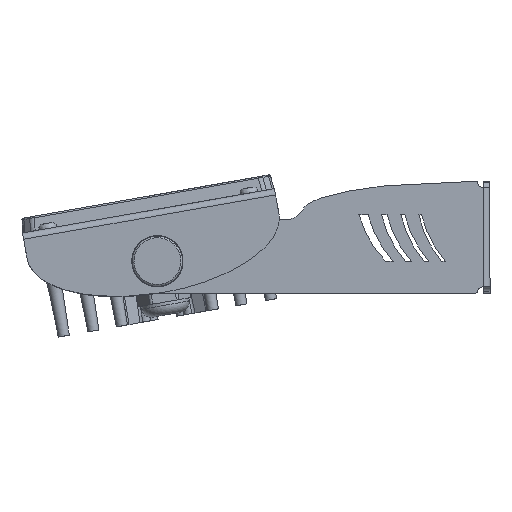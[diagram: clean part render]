
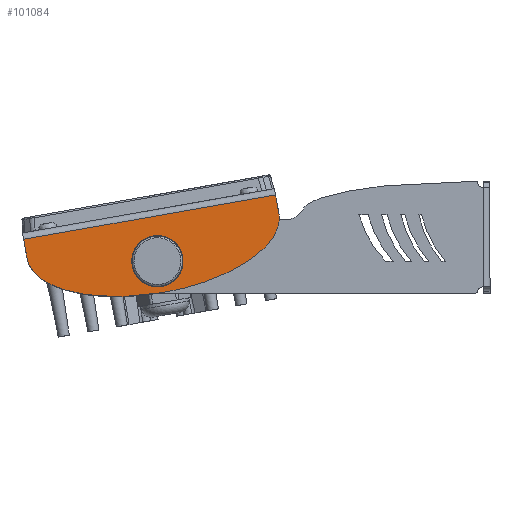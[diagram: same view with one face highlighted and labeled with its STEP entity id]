
A CAD part, left-side view. The second image highlights one B-rep face of the part: STEP entity #101084.
In plain terms, the highlighted planar face has unit normal (-1, 0, 0).
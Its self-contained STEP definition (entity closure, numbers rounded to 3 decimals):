
#7741=FACE_BOUND('',#20694,.T.);
#8182=ELLIPSE('',#107679,40.,18.);
#8183=ELLIPSE('',#107680,40.,18.);
#10964=CIRCLE('',#107681,4.);
#14783=FACE_OUTER_BOUND('',#20693,.T.);
#20693=EDGE_LOOP('',(#73708,#73709,#73710,#73711,#73712));
#20694=EDGE_LOOP('',(#73713));
#25573=LINE('',#225877,#31710);
#25574=LINE('',#225879,#31711);
#25575=LINE('',#225881,#31712);
#31710=VECTOR('',#118752,10.);
#31711=VECTOR('',#118753,10.);
#31712=VECTOR('',#118754,10.);
#40007=VERTEX_POINT('',#225875);
#40008=VERTEX_POINT('',#225876);
#40009=VERTEX_POINT('',#225878);
#40010=VERTEX_POINT('',#225880);
#40011=VERTEX_POINT('',#225882);
#40012=VERTEX_POINT('',#225885);
#52451=EDGE_CURVE('',#40007,#40008,#25573,.T.);
#52452=EDGE_CURVE('',#40009,#40007,#25574,.T.);
#52453=EDGE_CURVE('',#40010,#40009,#25575,.T.);
#52454=EDGE_CURVE('',#40011,#40010,#8182,.T.);
#52455=EDGE_CURVE('',#40008,#40011,#8183,.T.);
#52456=EDGE_CURVE('',#40012,#40012,#10964,.T.);
#73708=ORIENTED_EDGE('',*,*,#52451,.F.);
#73709=ORIENTED_EDGE('',*,*,#52452,.F.);
#73710=ORIENTED_EDGE('',*,*,#52453,.F.);
#73711=ORIENTED_EDGE('',*,*,#52454,.F.);
#73712=ORIENTED_EDGE('',*,*,#52455,.F.);
#73713=ORIENTED_EDGE('',*,*,#52456,.F.);
#96083=PLANE('',#107678);
#101084=ADVANCED_FACE('',(#14783,#7741),#96083,.F.);
#107678=AXIS2_PLACEMENT_3D('',#225874,#118750,#118751);
#107679=AXIS2_PLACEMENT_3D('',#225883,#118755,#118756);
#107680=AXIS2_PLACEMENT_3D('',#225884,#118757,#118758);
#107681=AXIS2_PLACEMENT_3D('',#225886,#118759,#118760);
#118750=DIRECTION('center_axis',(1.,0.,0.));
#118751=DIRECTION('ref_axis',(0.,-0.985,0.174));
#118752=DIRECTION('',(0.,-0.174,-0.985));
#118753=DIRECTION('',(0.,-0.985,0.174));
#118754=DIRECTION('',(0.,0.174,0.985));
#118755=DIRECTION('center_axis',(1.,0.,0.));
#118756=DIRECTION('ref_axis',(0.,-0.985,0.174));
#118757=DIRECTION('center_axis',(1.,0.,0.));
#118758=DIRECTION('ref_axis',(0.,0.985,-0.174));
#118759=DIRECTION('center_axis',(-1.,0.,0.));
#118760=DIRECTION('ref_axis',(0.,0.,
-1.));
#225874=CARTESIAN_POINT('Origin',(-111.,10.847,1.97));
#225875=CARTESIAN_POINT('',(-111.,-26.461,20.733));
#225876=CARTESIAN_POINT('',(-111.,-27.503,14.824));
#225877=CARTESIAN_POINT('',(-111.,-22.169,45.074));
#225878=CARTESIAN_POINT('',(-111.,52.323,6.841));
#225879=CARTESIAN_POINT('',(-111.,52.323,6.841));
#225880=CARTESIAN_POINT('',(-111.,51.282,0.933));
#225881=CARTESIAN_POINT('',(-111.,56.615,31.183));
#225882=CARTESIAN_POINT('',(-111.,8.764,-9.848));
#225883=CARTESIAN_POINT('Origin',(-111.,11.889,7.878));
#225884=CARTESIAN_POINT('Origin',(-111.,11.889,7.878));
#225885=CARTESIAN_POINT('',(-111.,10.5,4.));
#225886=CARTESIAN_POINT('Origin',(-111.,10.5,0.));
